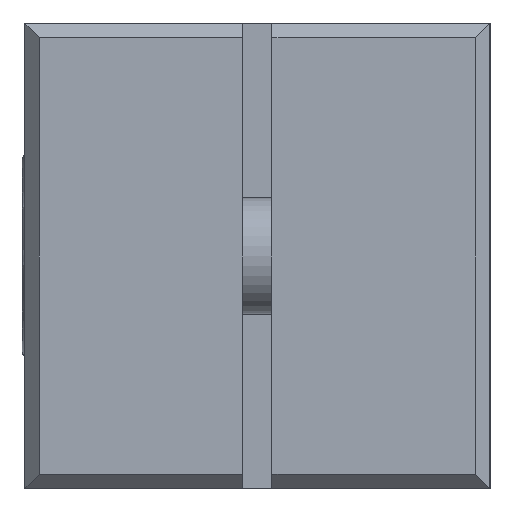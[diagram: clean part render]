
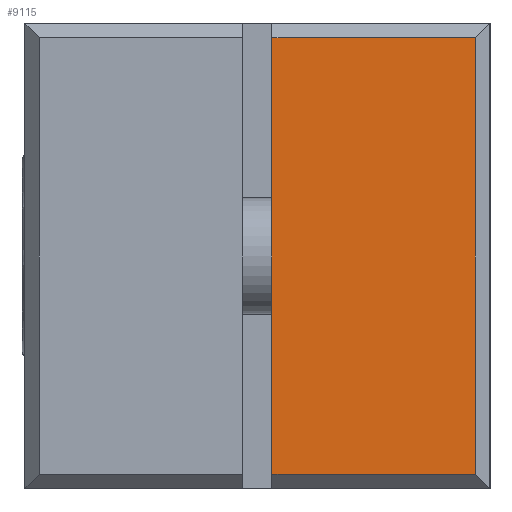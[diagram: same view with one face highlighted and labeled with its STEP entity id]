
A CAD part, left-side view. The second image highlights one B-rep face of the part: STEP entity #9115.
In plain terms, the highlighted planar face has unit normal (-1, 0, 0).
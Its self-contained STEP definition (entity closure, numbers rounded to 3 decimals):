
#11 = VECTOR ( 'NONE', #5178, 1000. ) ;
#135 = LINE ( 'NONE', #7868, #8114 ) ;
#928 = CARTESIAN_POINT ( 'NONE',  ( -52.086, 27.982, 0. ) ) ;
#950 = DIRECTION ( 'NONE',  ( -1., 0., 0. ) ) ;
#1322 = DIRECTION ( 'NONE',  ( 0., -1., 0. ) ) ;
#1882 = EDGE_CURVE ( 'NONE', #11679, #6012, #135, .T. ) ;
#2201 = DIRECTION ( 'NONE',  ( 0., 1., 0. ) ) ;
#2266 = EDGE_CURVE ( 'NONE', #6012, #6494, #9617, .T. ) ;
#2541 = LINE ( 'NONE', #11733, #10663 ) ;
#4337 = CARTESIAN_POINT ( 'NONE',  ( -52.086, 27.982, 7.5 ) ) ;
#4418 = VECTOR ( 'NONE', #8510, 1000. ) ;
#4618 = PLANE ( 'NONE',  #11459 ) ;
#4766 = FACE_OUTER_BOUND ( 'NONE', #12132, .T. ) ;
#4880 = EDGE_CURVE ( 'NONE', #6494, #7058, #2541, .T. ) ;
#4943 = LINE ( 'NONE', #5137, #11 ) ;
#5137 = CARTESIAN_POINT ( 'NONE',  ( -52.086, 34.982, 0. ) ) ;
#5178 = DIRECTION ( 'NONE',  ( 0., 0., -1. ) ) ;
#5507 = DIRECTION ( 'NONE',  ( 0., 0., 1. ) ) ;
#5575 = ORIENTED_EDGE ( 'NONE', *, *, #2266, .T. ) ;
#5596 = ORIENTED_EDGE ( 'NONE', *, *, #9808, .T. ) ;
#5634 = CARTESIAN_POINT ( 'NONE',  ( -52.086, 27.982, -7.5 ) ) ;
#6012 = VERTEX_POINT ( 'NONE', #5634 ) ;
#6494 = VERTEX_POINT ( 'NONE', #4337 ) ;
#6501 = CARTESIAN_POINT ( 'NONE',  ( -52.086, 27.982, -7.5 ) ) ;
#7058 = VERTEX_POINT ( 'NONE', #8964 ) ;
#7354 = ORIENTED_EDGE ( 'NONE', *, *, #4880, .T. ) ;
#7868 = CARTESIAN_POINT ( 'NONE',  ( -52.086, 31.482, -7.5 ) ) ;
#8114 = VECTOR ( 'NONE', #1322, 1000. ) ;
#8510 = DIRECTION ( 'NONE',  ( 0., 0., 1. ) ) ;
#8964 = CARTESIAN_POINT ( 'NONE',  ( -52.086, 34.982, 7.5 ) ) ;
#9115 = ADVANCED_FACE ( 'NONE', ( #4766 ), #4618, .T. ) ;
#9617 = LINE ( 'NONE', #928, #4418 ) ;
#9784 = ORIENTED_EDGE ( 'NONE', *, *, #1882, .T. ) ;
#9808 = EDGE_CURVE ( 'NONE', #7058, #11679, #4943, .T. ) ;
#10663 = VECTOR ( 'NONE', #2201, 1000. ) ;
#11459 = AXIS2_PLACEMENT_3D ( 'NONE', #6501, #950, #5507 ) ;
#11640 = CARTESIAN_POINT ( 'NONE',  ( -52.086, 34.982, -7.5 ) ) ;
#11679 = VERTEX_POINT ( 'NONE', #11640 ) ;
#11733 = CARTESIAN_POINT ( 'NONE',  ( -52.086, 31.482, 7.5 ) ) ;
#12132 = EDGE_LOOP ( 'NONE', ( #5596, #9784, #5575, #7354 ) ) ;
